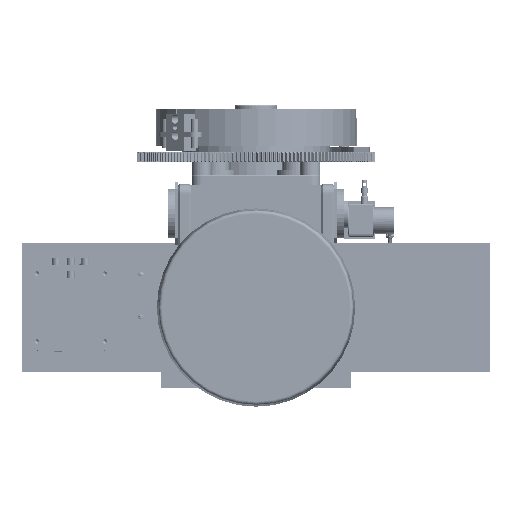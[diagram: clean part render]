
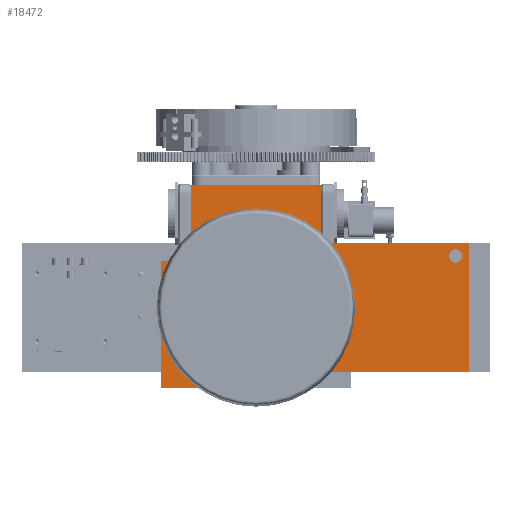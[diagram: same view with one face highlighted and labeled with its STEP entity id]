
A CAD part, left-side view. The second image highlights one B-rep face of the part: STEP entity #18472.
In plain terms, the highlighted planar face has unit normal (-1, 0, 0).
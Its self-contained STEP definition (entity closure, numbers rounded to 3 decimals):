
#9174=FACE_BOUND('',#27370,.T.);
#9175=FACE_BOUND('',#27371,.T.);
#9176=FACE_BOUND('',#27372,.T.);
#14387=CIRCLE('',#78020,82.);
#14388=CIRCLE('',#78022,10.);
#18472=ADVANCED_FACE('NONE',(#9174,#9175,#9176),#19759,.F.);
#19759=PLANE('',#78023);
#27370=EDGE_LOOP('',(#44971));
#27371=EDGE_LOOP('',(#44972,#44973,#44974,#44975,#44976,#44977,#44978,#44979,
#44980,#44981));
#27372=EDGE_LOOP('',(#44982));
#44971=ORIENTED_EDGE('',*,*,#63304,.F.);
#44972=ORIENTED_EDGE('',*,*,#63300,.F.);
#44973=ORIENTED_EDGE('',*,*,#63298,.F.);
#44974=ORIENTED_EDGE('',*,*,#63296,.F.);
#44975=ORIENTED_EDGE('',*,*,#63295,.F.);
#44976=ORIENTED_EDGE('',*,*,#63292,.F.);
#44977=ORIENTED_EDGE('',*,*,#63290,.F.);
#44978=ORIENTED_EDGE('',*,*,#63288,.F.);
#44979=ORIENTED_EDGE('',*,*,#63287,.F.);
#44980=ORIENTED_EDGE('',*,*,#63284,.F.);
#44981=ORIENTED_EDGE('',*,*,#63302,.F.);
#44982=ORIENTED_EDGE('',*,*,#63303,.F.);
#53911=VERTEX_POINT('',#128766);
#53912=VERTEX_POINT('',#128768);
#53913=VERTEX_POINT('',#128772);
#53914=VERTEX_POINT('',#128776);
#53915=VERTEX_POINT('',#128780);
#53916=VERTEX_POINT('',#128784);
#53917=VERTEX_POINT('',#128788);
#53918=VERTEX_POINT('',#128792);
#53919=VERTEX_POINT('',#128796);
#53920=VERTEX_POINT('',#128800);
#53921=VERTEX_POINT('',#128806);
#53922=VERTEX_POINT('',#128809);
#63284=EDGE_CURVE('NONE',#53911,#53912,#67036,.T.);
#63287=EDGE_CURVE('NONE',#53912,#53913,#67039,.T.);
#63288=EDGE_CURVE('NONE',#53913,#53914,#67040,.T.);
#63290=EDGE_CURVE('NONE',#53914,#53915,#67042,.T.);
#63292=EDGE_CURVE('NONE',#53915,#53916,#67044,.T.);
#63295=EDGE_CURVE('NONE',#53916,#53917,#67047,.T.);
#63296=EDGE_CURVE('NONE',#53917,#53918,#67048,.T.);
#63298=EDGE_CURVE('NONE',#53918,#53919,#67050,.T.);
#63300=EDGE_CURVE('NONE',#53919,#53920,#67052,.T.);
#63302=EDGE_CURVE('NONE',#53920,#53911,#67054,.T.);
#63303=EDGE_CURVE('NONE',#53921,#53921,#14387,.T.);
#63304=EDGE_CURVE('',#53922,#53922,#14388,.T.);
#67036=LINE('',#128767,#69875);
#67039=LINE('',#128773,#69878);
#67040=LINE('',#128775,#69879);
#67042=LINE('',#128779,#69881);
#67044=LINE('',#128783,#69883);
#67047=LINE('',#128789,#69886);
#67048=LINE('',#128791,#69887);
#67050=LINE('',#128795,#69889);
#67052=LINE('',#128799,#69891);
#67054=LINE('',#128803,#69893);
#69875=VECTOR('',#96972,1.);
#69878=VECTOR('',#96977,1.);
#69879=VECTOR('',#96980,1.);
#69881=VECTOR('',#96984,1.);
#69883=VECTOR('',#96988,1.);
#69886=VECTOR('',#96993,1.);
#69887=VECTOR('',#96996,1.);
#69889=VECTOR('',#97000,1.);
#69891=VECTOR('',#97004,1.);
#69893=VECTOR('',#97008,1.);
#78020=AXIS2_PLACEMENT_3D('',#128805,#97011,#97012);
#78022=AXIS2_PLACEMENT_3D('',#128808,#97015,#97016);
#78023=AXIS2_PLACEMENT_3D('',#128810,#97017,#97018);
#96972=DIRECTION('',(0.,0.,-1.));
#96977=DIRECTION('',(0.,1.,0.));
#96980=DIRECTION('',(0.,0.707,-0.707));
#96984=DIRECTION('',(0.,1.,0.));
#96988=DIRECTION('',(0.,0.,1.));
#96993=DIRECTION('',(0.,-1.,0.));
#96996=DIRECTION('',(0.,0.,1.));
#97000=DIRECTION('',(0.,-1.,0.));
#97004=DIRECTION('',(0.,0.,-1.));
#97008=DIRECTION('',(0.,-1.,0.));
#97011=DIRECTION('',(-1.,0.,0.));
#97012=DIRECTION('',(0.,0.,1.));
#97015=DIRECTION('',(-1.,0.,0.));
#97016=DIRECTION('',(0.,0.,1.));
#97017=DIRECTION('',(1.,0.,0.));
#97018=DIRECTION('',(0.,0.,-1.));
#128766=CARTESIAN_POINT('',(-252.5,-322.,-208.934));
#128767=CARTESIAN_POINT('',(-252.5,-322.,-108.934));
#128768=CARTESIAN_POINT('',(-252.5,-322.,-404.934));
#128772=CARTESIAN_POINT('',(-252.5,-82.,-404.934));
#128773=CARTESIAN_POINT('',(-252.5,-140.,-404.934));
#128775=CARTESIAN_POINT('',(-252.5,-82.,-404.934));
#128776=CARTESIAN_POINT('',(-252.5,-58.,-428.934));
#128779=CARTESIAN_POINT('',(-252.5,-140.,-428.934));
#128780=CARTESIAN_POINT('',(-252.5,143.,-428.934));
#128783=CARTESIAN_POINT('',(-252.5,143.,-108.934));
#128784=CARTESIAN_POINT('',(-252.5,143.,-235.934));
#128788=CARTESIAN_POINT('',(-252.5,98.,-235.934));
#128789=CARTESIAN_POINT('',(-252.5,-140.,-235.934));
#128791=CARTESIAN_POINT('',(-252.5,98.,-108.934));
#128792=CARTESIAN_POINT('',(-252.5,98.,-121.934));
#128795=CARTESIAN_POINT('',(-252.5,-140.,-121.934));
#128796=CARTESIAN_POINT('',(-252.5,-98.,-121.934));
#128799=CARTESIAN_POINT('',(-252.5,-98.,-108.934));
#128800=CARTESIAN_POINT('',(-252.5,-98.,-208.934));
#128803=CARTESIAN_POINT('',(-252.5,-140.,-208.934));
#128805=CARTESIAN_POINT('',(-252.5,0.,-306.934));
#128806=CARTESIAN_POINT('',(-252.5,0.,-224.934));
#128808=CARTESIAN_POINT('',(-252.5,-302.,-228.934));
#128809=CARTESIAN_POINT('',(-252.5,-302.,-218.934));
#128810=CARTESIAN_POINT('',(-252.5,-140.,-108.934));
